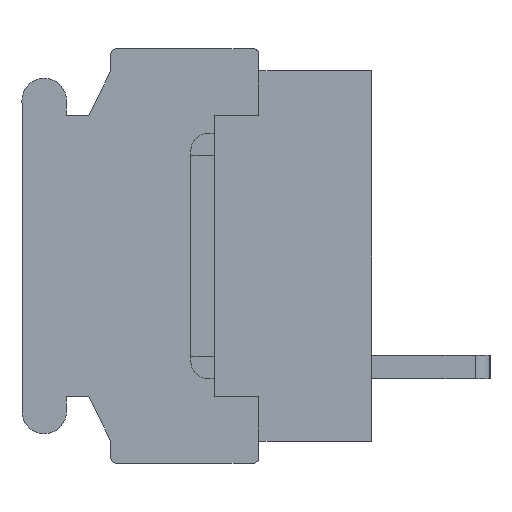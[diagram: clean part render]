
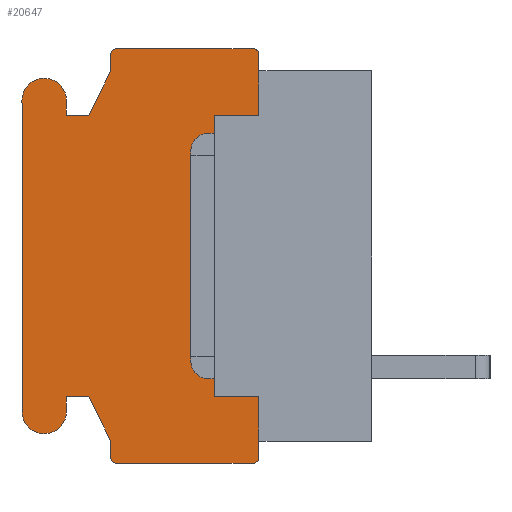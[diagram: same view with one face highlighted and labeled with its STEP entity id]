
A CAD part, left-side view. The second image highlights one B-rep face of the part: STEP entity #20647.
In plain terms, the highlighted planar face has unit normal (-1, 0, 0).
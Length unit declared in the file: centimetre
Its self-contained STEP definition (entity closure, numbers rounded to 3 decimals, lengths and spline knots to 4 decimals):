
#1234=PLANE('',#33869);
#1985=VECTOR('',#21993,1.);
#3166=VECTOR('',#24527,1.);
#3167=VECTOR('',#24528,1.);
#3168=VECTOR('',#24531,1.);
#3169=VECTOR('',#24534,1.);
#3170=VECTOR('',#24535,1.);
#3171=VECTOR('',#24536,1.);
#3172=VECTOR('',#24537,1.);
#3173=VECTOR('',#24540,1.);
#3174=VECTOR('',#24543,1.);
#3175=VECTOR('',#24544,1.);
#3176=VECTOR('',#24545,1.);
#3177=VECTOR('',#24546,1.);
#3178=VECTOR('',#24549,1.);
#3179=VECTOR('',#24552,1.);
#3180=VECTOR('',#24553,1.);
#3181=VECTOR('',#24554,1.);
#3182=VECTOR('',#24555,1.);
#4213=LINE('',#27338,#1985);
#5394=LINE('',#31063,#3166);
#5395=LINE('',#31065,#3167);
#5396=LINE('',#31069,#3168);
#5397=LINE('',#31073,#3169);
#5398=LINE('',#31075,#3170);
#5399=LINE('',#31077,#3171);
#5400=LINE('',#31079,#3172);
#5401=LINE('',#31083,#3173);
#5402=LINE('',#31087,#3174);
#5403=LINE('',#31089,#3175);
#5404=LINE('',#31091,#3176);
#5405=LINE('',#31093,#3177);
#5406=LINE('',#31097,#3178);
#5407=LINE('',#31101,#3179);
#5408=LINE('',#31102,#3180);
#5409=LINE('',#31104,#3181);
#5410=LINE('',#31105,#3182);
#6382=VERTEX_POINT('',#27339);
#6383=VERTEX_POINT('',#27340);
#6475=VERTEX_POINT('',#27599);
#6510=VERTEX_POINT('',#27674);
#7470=VERTEX_POINT('',#31064);
#7471=VERTEX_POINT('',#31066);
#7472=VERTEX_POINT('',#31068);
#7473=VERTEX_POINT('',#31070);
#7474=VERTEX_POINT('',#31072);
#7475=VERTEX_POINT('',#31074);
#7476=VERTEX_POINT('',#31076);
#7477=VERTEX_POINT('',#31078);
#7478=VERTEX_POINT('',#31080);
#7479=VERTEX_POINT('',#31082);
#7480=VERTEX_POINT('',#31084);
#7481=VERTEX_POINT('',#31086);
#7482=VERTEX_POINT('',#31088);
#7483=VERTEX_POINT('',#31090);
#7484=VERTEX_POINT('',#31092);
#7485=VERTEX_POINT('',#31094);
#7486=VERTEX_POINT('',#31096);
#7487=VERTEX_POINT('',#31098);
#7488=VERTEX_POINT('',#31100);
#7489=VERTEX_POINT('',#31103);
#8206=CIRCLE('',#33870,0.02);
#8207=CIRCLE('',#33871,0.02);
#8208=CIRCLE('',#33872,0.075);
#8209=CIRCLE('',#33873,0.075);
#8210=CIRCLE('',#33874,0.02);
#8211=CIRCLE('',#33875,0.02);
#9020=EDGE_CURVE('',#6382,#6383,#4213,.T.);
#10679=EDGE_CURVE('',#7470,#6475,#5394,.T.);
#10680=EDGE_CURVE('',#7471,#6475,#5395,.T.);
#10681=EDGE_CURVE('',#7472,#7471,#8206,.T.);
#10682=EDGE_CURVE('',#7473,#7472,#5396,.T.);
#10683=EDGE_CURVE('',#7474,#7473,#8207,.T.);
#10684=EDGE_CURVE('',#7475,#7474,#5397,.T.);
#10685=EDGE_CURVE('',#7476,#7475,#5398,.T.);
#10686=EDGE_CURVE('',#7477,#7476,#5399,.T.);
#10687=EDGE_CURVE('',#7478,#7477,#5400,.T.);
#10688=EDGE_CURVE('',#7479,#7478,#8208,.T.);
#10689=EDGE_CURVE('',#7480,#7479,#5401,.T.);
#10690=EDGE_CURVE('',#7481,#7480,#8209,.T.);
#10691=EDGE_CURVE('',#7482,#7481,#5402,.T.);
#10692=EDGE_CURVE('',#7483,#7482,#5403,.T.);
#10693=EDGE_CURVE('',#7484,#7483,#5404,.T.);
#10694=EDGE_CURVE('',#7485,#7484,#5405,.T.);
#10695=EDGE_CURVE('',#7486,#7485,#8210,.T.);
#10696=EDGE_CURVE('',#7487,#7486,#5406,.T.);
#10697=EDGE_CURVE('',#7488,#7487,#8211,.T.);
#10698=EDGE_CURVE('',#6510,#7488,#5407,.T.);
#10699=EDGE_CURVE('',#6510,#7489,#5408,.T.);
#10700=EDGE_CURVE('',#7489,#6382,#5409,.T.);
#10701=EDGE_CURVE('',#6383,#7470,#5410,.T.);
#16131=ORIENTED_EDGE('',*,*,#10679,.T.);
#16132=ORIENTED_EDGE('',*,*,#10680,.F.);
#16133=ORIENTED_EDGE('',*,*,#10681,.F.);
#16134=ORIENTED_EDGE('',*,*,#10682,.F.);
#16135=ORIENTED_EDGE('',*,*,#10683,.F.);
#16136=ORIENTED_EDGE('',*,*,#10684,.F.);
#16137=ORIENTED_EDGE('',*,*,#10685,.F.);
#16138=ORIENTED_EDGE('',*,*,#10686,.F.);
#16139=ORIENTED_EDGE('',*,*,#10687,.F.);
#16140=ORIENTED_EDGE('',*,*,#10688,.F.);
#16141=ORIENTED_EDGE('',*,*,#10689,.F.);
#16142=ORIENTED_EDGE('',*,*,#10690,.F.);
#16143=ORIENTED_EDGE('',*,*,#10691,.F.);
#16144=ORIENTED_EDGE('',*,*,#10692,.F.);
#16145=ORIENTED_EDGE('',*,*,#10693,.F.);
#16146=ORIENTED_EDGE('',*,*,#10694,.F.);
#16147=ORIENTED_EDGE('',*,*,#10695,.F.);
#16148=ORIENTED_EDGE('',*,*,#10696,.F.);
#16149=ORIENTED_EDGE('',*,*,#10697,.F.);
#16150=ORIENTED_EDGE('',*,*,#10698,.F.);
#16151=ORIENTED_EDGE('',*,*,#10699,.T.);
#16152=ORIENTED_EDGE('',*,*,#10700,.T.);
#16153=ORIENTED_EDGE('',*,*,#9020,.T.);
#16154=ORIENTED_EDGE('',*,*,#10701,.T.);
#18279=EDGE_LOOP('',(#16131,#16132,#16133,#16134,#16135,#16136,#16137,#16138,
#16139,#16140,#16141,#16142,#16143,#16144,#16145,#16146,#16147,#16148,#16149,
#16150,#16151,#16152,#16153,#16154));
#19501=FACE_BOUND('',#18279,.T.);
#20647=ADVANCED_FACE('',(#19501),#1234,.F.);
#21993=DIRECTION('',(0.,0.,1.));
#24526=DIRECTION('',(1.,0.,0.));
#24527=DIRECTION('',(0.,0.,1.));
#24528=DIRECTION('',(0.,0.,-1.));
#24529=DIRECTION('',(1.,0.,0.));
#24530=DIRECTION('',(0.,0.,-0.02));
#24531=DIRECTION('',(0.,-1.,0.));
#24532=DIRECTION('',(1.,0.,0.));
#24533=DIRECTION('',(0.,0.,-0.02));
#24534=DIRECTION('',(0.,0.,1.));
#24535=DIRECTION('',(0.,-0.447,0.894));
#24536=DIRECTION('',(0.,-1.,0.));
#24537=DIRECTION('',(0.,0.,-1.));
#24538=DIRECTION('',(1.,0.,0.));
#24539=DIRECTION('',(0.,0.,-0.075));
#24540=DIRECTION('',(0.,0.,1.));
#24541=DIRECTION('',(1.,0.,0.));
#24542=DIRECTION('',(0.,0.,-0.075));
#24543=DIRECTION('',(0.,0.,-1.));
#24544=DIRECTION('',(0.,1.,0.));
#24545=DIRECTION('',(0.,0.447,0.894));
#24546=DIRECTION('',(0.,0.,1.));
#24547=DIRECTION('',(1.,0.,0.));
#24548=DIRECTION('',(0.,0.,-0.02));
#24549=DIRECTION('',(0.,1.,0.));
#24550=DIRECTION('',(1.,0.,0.));
#24551=DIRECTION('',(0.,0.,-0.02));
#24552=DIRECTION('',(0.,0.,-1.));
#24553=DIRECTION('',(0.,0.,1.));
#24554=DIRECTION('',(0.,1.,0.));
#24555=DIRECTION('',(0.,-1.,0.));
#27338=CARTESIAN_POINT('',(-0.762,0.53,0.));
#27339=CARTESIAN_POINT('',(-0.762,0.53,-0.475));
#27340=CARTESIAN_POINT('',(-0.762,0.53,0.475));
#27599=CARTESIAN_POINT('',(-0.762,0.38,0.625));
#27674=CARTESIAN_POINT('',(-0.762,0.38,-0.625));
#31062=CARTESIAN_POINT('',(-0.762,0.6059,0.));
#31063=CARTESIAN_POINT('',(-0.762,0.38,0.275));
#31064=CARTESIAN_POINT('',(-0.762,0.38,0.475));
#31065=CARTESIAN_POINT('',(-0.762,0.38,0.68));
#31066=CARTESIAN_POINT('',(-0.762,0.38,0.68));
#31067=CARTESIAN_POINT('',(-0.762,0.4,0.68));
#31068=CARTESIAN_POINT('',(-0.762,0.4,0.7));
#31069=CARTESIAN_POINT('',(-0.762,0.86,0.7));
#31070=CARTESIAN_POINT('',(-0.762,0.86,0.7));
#31071=CARTESIAN_POINT('',(-0.762,0.86,0.68));
#31072=CARTESIAN_POINT('',(-0.762,0.88,0.68));
#31073=CARTESIAN_POINT('',(-0.762,0.88,0.625));
#31074=CARTESIAN_POINT('',(-0.762,0.88,0.625));
#31075=CARTESIAN_POINT('',(-0.762,0.955,0.475));
#31076=CARTESIAN_POINT('',(-0.762,0.955,0.475));
#31077=CARTESIAN_POINT('',(-0.762,1.03,0.475));
#31078=CARTESIAN_POINT('',(-0.762,1.03,0.475));
#31079=CARTESIAN_POINT('',(-0.762,1.03,0.525));
#31080=CARTESIAN_POINT('',(-0.762,1.03,0.525));
#31081=CARTESIAN_POINT('',(-0.762,1.105,0.525));
#31082=CARTESIAN_POINT('',(-0.762,1.18,0.525));
#31083=CARTESIAN_POINT('',(-0.762,1.18,-0.525));
#31084=CARTESIAN_POINT('',(-0.762,1.18,-0.525));
#31085=CARTESIAN_POINT('',(-0.762,1.105,-0.525));
#31086=CARTESIAN_POINT('',(-0.762,1.03,-0.525));
#31087=CARTESIAN_POINT('',(-0.762,1.03,-0.475));
#31088=CARTESIAN_POINT('',(-0.762,1.03,-0.475));
#31089=CARTESIAN_POINT('',(-0.762,0.955,-0.475));
#31090=CARTESIAN_POINT('',(-0.762,0.955,-0.475));
#31091=CARTESIAN_POINT('',(-0.762,0.88,-0.625));
#31092=CARTESIAN_POINT('',(-0.762,0.88,-0.625));
#31093=CARTESIAN_POINT('',(-0.762,0.88,-0.68));
#31094=CARTESIAN_POINT('',(-0.762,0.88,-0.68));
#31095=CARTESIAN_POINT('',(-0.762,0.86,-0.68));
#31096=CARTESIAN_POINT('',(-0.762,0.86,-0.7));
#31097=CARTESIAN_POINT('',(-0.762,0.4,-0.7));
#31098=CARTESIAN_POINT('',(-0.762,0.4,-0.7));
#31099=CARTESIAN_POINT('',(-0.762,0.4,-0.68));
#31100=CARTESIAN_POINT('',(-0.762,0.38,-0.68));
#31101=CARTESIAN_POINT('',(-0.762,0.38,-0.625));
#31102=CARTESIAN_POINT('',(-0.762,0.38,-0.275));
#31103=CARTESIAN_POINT('',(-0.762,0.38,-0.475));
#31104=CARTESIAN_POINT('',(-0.762,0.5304,-0.475));
#31105=CARTESIAN_POINT('',(-0.762,0.5304,0.475));
#33869=AXIS2_PLACEMENT_3D('',#31062,#24526,$);
#33870=AXIS2_PLACEMENT_3D('',#31067,#24529,#24530);
#33871=AXIS2_PLACEMENT_3D('',#31071,#24532,#24533);
#33872=AXIS2_PLACEMENT_3D('',#31081,#24538,#24539);
#33873=AXIS2_PLACEMENT_3D('',#31085,#24541,#24542);
#33874=AXIS2_PLACEMENT_3D('',#31095,#24547,#24548);
#33875=AXIS2_PLACEMENT_3D('',#31099,#24550,#24551);
